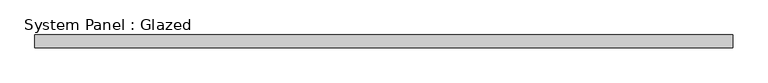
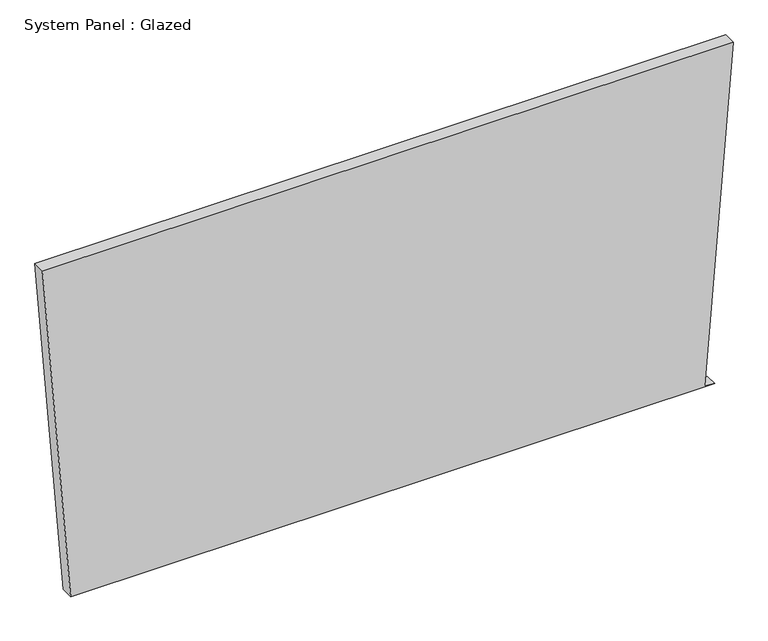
"""IFC4 building model written with IfcOpenShell, lengths in millimetres: plate geometry, System Panel : Glazed."""

from ifc_helpers import new_model, si_unit, frame, origin, place, context, project, spatial, polyline, outline, extrude, source, transform, mapped, element, save


def system_panel_glazed_a21bd47d(model_context):
    return source(origin(), model_context, "Body", "SweptSolid", [
        extrude(outline(polyline([(0.0068129, -629.2144949), (0.0, 648.3247509), (1.511099, 629.3347778), (703.5696771, 685.2000484), (703.5769852, -685.2000484), (0.0068129, -629.2144949)])), frame((0.0, 19.05, 0.0), z_axis=(0.0, 1.0, 0.0), x_axis=(0.0, 0.0, 1.0)), (0.0, 0.0, 1.0), 25.4),
    ])


if __name__ == "__main__":
    model = new_model("IFC4")
    model_context = context("Model", 3, world=origin())
    ifc_project = project(units=[si_unit("LENGTHUNIT", "METRE", prefix="MILLI")], contexts=[model_context])
    site = spatial("IfcSite", under=ifc_project)
    building = spatial("IfcBuilding", under=site)
    placement = place(None, origin())
    system_panel_glazed_shape = system_panel_glazed_a21bd47d(model_context)
    element("IfcPlate", 1, ObjectType="System Panel : Glazed", at=placement, inside=building, context=model_context, shape_type="MappedRepresentation", body=[
        mapped(system_panel_glazed_shape, transform((0.0, 0.0, 0.0), x_axis=(1.0, 0.0, 0.0), y_axis=(0.0, 1.0, 0.0), z_axis=(0.0, 0.0, 1.0))),
    ])
    save(model, "model.ifc")
